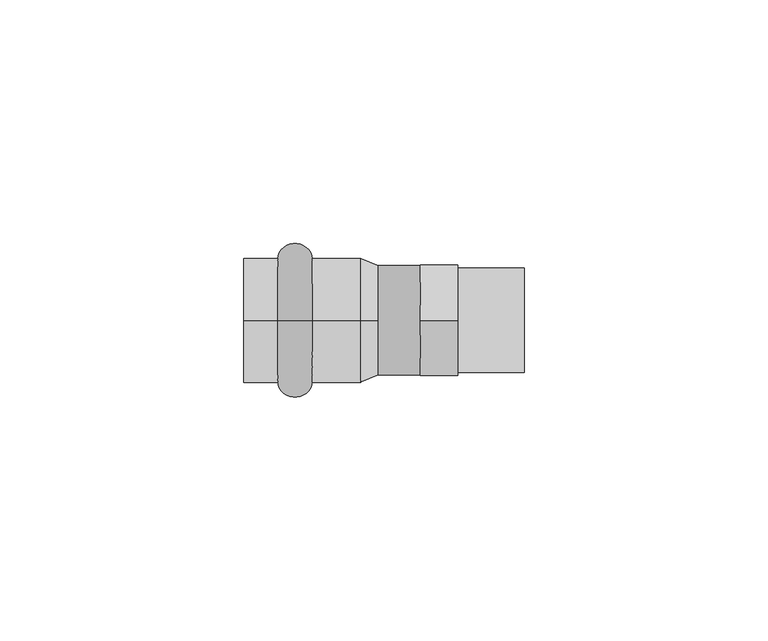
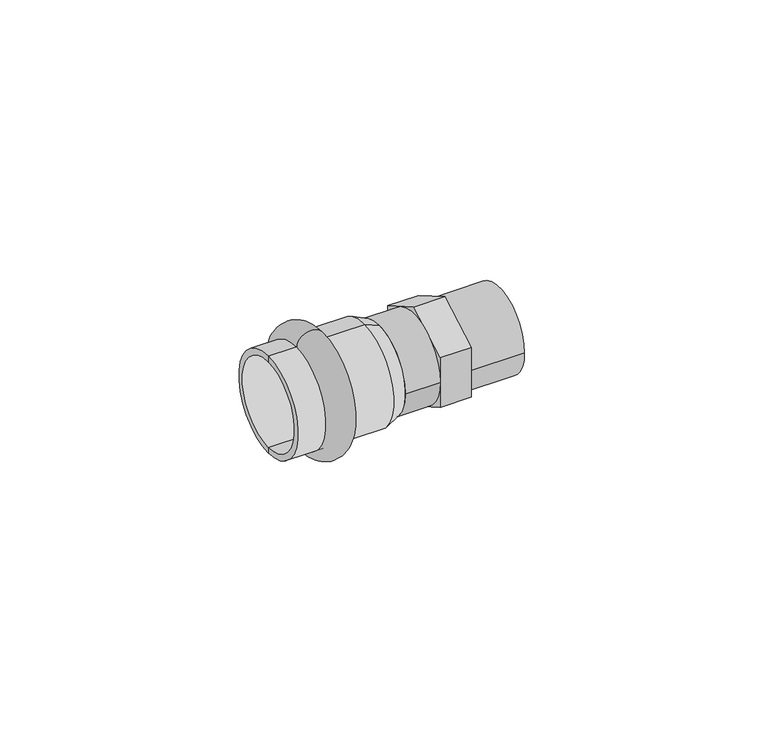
"""IFC4 building model written with IfcOpenShell, lengths in millimetres: pipe fitting geometry."""

from ifc_helpers import new_model, si_unit, point, frame, origin, origin_2d, place, context, project, spatial, polyline, circle_curve, ellipse_curve, trimmed, segment, composite_curve, outline, extrude, source, transform, mapped, element, save
from ifc_brep_helpers import plane_surface, cylinder_surface, revolved_surface, advanced_brep


def pipe_fitting_c1bab750(model_context):
    return source(origin(), model_context, "Body", "SolidModel", [
        advanced_brep(
        [(-17.0, 0.0, 12.75), (-17.0, 0.0, -12.75), (-10.0, 0.0, -12.75), (-10.0, 0.0, 12.75)],
        [
            (0, 1, circle_curve(frame((-17.0, 0.0, 0.0), z_axis=(-1.0, 0.0, 0.0), x_axis=(0.0, 0.0, -1.0)), 12.75)),
            (1, 2),
            (2, 3, circle_curve(frame((-10.0, 0.0, 0.0), z_axis=(1.0, 0.0, 0.0), x_axis=(0.0, 0.0, -1.0)), 12.75)),
            (3, 0),
            (1, 0, circle_curve(frame((-17.0, 0.0, 0.0), z_axis=(-1.0, 0.0, 0.0), x_axis=(0.0, 0.0, -1.0)), 12.75)),
            (3, 2, circle_curve(frame((-10.0, 0.0, 0.0), z_axis=(1.0, 0.0, 0.0), x_axis=(0.0, 0.0, -1.0)), 12.75)),
            (2, 1, ellipse_curve(frame((-13.5, 0.0, -12.75), z_axis=(0.0, 1.0, 0.0), x_axis=(-1.0, 0.0, 0.0)), 3.5, 3.1)),
            (0, 3, ellipse_curve(frame((-13.5, 0.0, 12.75), z_axis=(0.0, 1.0, 0.0), x_axis=(-1.0, 0.0, 0.0)), 3.5, 3.1)),
        ],
        [
            revolved_surface(polyline([(-10.0, 0.0, -12.75), (-17.0, 0.0, -12.75)]), (3.0, 0.0, 0.0), (1.0, 0.0, 0.0)),
            revolved_surface(trimmed(ellipse_curve(frame((-13.5, 0.0, -12.75), z_axis=(0.0, -1.0, 0.0), x_axis=(-1.0, 0.0, 0.0)), 3.5, 3.1), [point((-17.0, 0.0, -12.75))], [point((-10.0, 0.0, -12.75))], True, "CARTESIAN"), (3.0, 0.0, 0.0), (1.0, 0.0, 0.0)),
        ],
        [
            (0, [[1, 2, 3, 4]]),
            (0, [[5, -4, 6, -2]]),
            (1, [[-3, 7, -1, 8]]),
            (1, [[-6, -8, -5, -7]]),
        ],
    ),
        advanced_brep(
        [(3.5337785, 0.0, 11.25), (3.5337785, 0.0, -11.25), (0.0, 0.0, -12.75), (0.0, 0.0, 12.75), (-24.0, 0.0, 11.25), (-24.0, 0.0, -11.25), (-24.0, 0.0, 12.75), (-24.0, 0.0, -12.75)],
        [
            (0, 1, circle_curve(frame((3.5337785, 0.0, 0.0), z_axis=(-1.0, 0.0, 0.0), x_axis=(0.0, 0.0, -1.0)), 11.25)),
            (1, 2),
            (2, 3, circle_curve(frame((0.0, 0.0, 0.0), z_axis=(1.0, 0.0, 0.0), x_axis=(0.0, 0.0, -1.0)), 12.75)),
            (3, 0),
            (1, 0, circle_curve(frame((3.5337785, 0.0, 0.0), z_axis=(-1.0, 0.0, 0.0), x_axis=(0.0, 0.0, -1.0)), 11.25)),
            (3, 2, circle_curve(frame((0.0, 0.0, 0.0), z_axis=(1.0, 0.0, 0.0), x_axis=(0.0, 0.0, -1.0)), 12.75)),
            (4, 5, circle_curve(frame((-24.0, 0.0, 0.0), z_axis=(-1.0, 0.0, 0.0), x_axis=(0.0, 0.0, -1.0)), 11.25)),
            (5, 1),
            (0, 4),
            (5, 4, circle_curve(frame((-24.0, 0.0, 0.0), z_axis=(-1.0, 0.0, 0.0), x_axis=(0.0, 0.0, -1.0)), 11.25)),
            (6, 7, circle_curve(frame((-24.0, 0.0, 0.0), z_axis=(-1.0, 0.0, 0.0), x_axis=(0.0, 0.0, -1.0)), 12.75)),
            (7, 5),
            (4, 6),
            (7, 6, circle_curve(frame((-24.0, 0.0, 0.0), z_axis=(-1.0, 0.0, 0.0), x_axis=(0.0, 0.0, -1.0)), 12.75)),
            (2, 7),
            (6, 3),
        ],
        [
            revolved_surface(polyline([(0.0, 0.0, -12.75), (3.5337785, 0.0, -11.25)]), (3.0, 0.0, 0.0), (1.0, 0.0, 0.0)),
            revolved_surface(polyline([(3.5337785, 0.0, -11.25), (-24.0, 0.0, -11.25)]), (3.0, 0.0, 0.0), (1.0, 0.0, 0.0)),
            plane_surface(frame((-24.0, 0.0, 0.0), z_axis=(-1.0, 0.0, 0.0), x_axis=(0.0, 0.0, -1.0))),
            cylinder_surface(frame((3.0, 0.0, 0.0), z_axis=(1.0, 0.0, 0.0), x_axis=(0.0, 0.0, -1.0)), 12.75),
        ],
        [
            (0, [[1, 2, 3, 4]]),
            (0, [[5, -4, 6, -2]]),
            (1, [[7, 8, -1, 9]]),
            (1, [[10, -9, -5, -8]]),
            (2, [[11, 12, -7, 13]]),
            (2, [[14, -13, -10, -12]]),
            (3, [[-3, 15, -11, 16]]),
            (3, [[-6, -16, -14, -15]]),
        ],
    ),
        extrude(outline(composite_curve([segment(trimmed(circle_curve(origin_2d(), 10.75), [point((-10.75, 0.0))], [point((10.75, 0.0))], False, "CARTESIAN"), True, "CONTINUOUS"), segment(trimmed(circle_curve(origin_2d(), 10.75), [point((10.75, 0.0))], [point((-10.75, 0.0))], False, "CARTESIAN"), True, "CONTINUOUS")], self_intersect=False)), frame((19.9337785, 0.0, 0.0), z_axis=(1.0, 0.0, 0.0), x_axis=(0.0, 1.0, 0.0)), (0.0, 0.0, 1.0), 13.6),
        extrude(outline(composite_curve([segment(trimmed(circle_curve(origin_2d(), 11.25), [point((-11.25, 0.0))], [point((11.25, 0.0))], False, "CARTESIAN"), True, "CONTINUOUS"), segment(trimmed(circle_curve(origin_2d(), 11.25), [point((11.25, 0.0))], [point((-11.25, 0.0))], False, "CARTESIAN"), True, "CONTINUOUS")], self_intersect=False)), frame((3.5337785, 0.0, 0.0), z_axis=(1.0, 0.0, 0.0), x_axis=(0.0, 1.0, 0.0)), (0.0, 0.0, 1.0), 8.7),
        extrude(outline(polyline([(-11.3, 6.524058), (0.0, 13.0481161), (11.3, 6.524058), (11.3, -6.524058), (0.0, -13.0481161), (-11.3, -6.524058), (-11.3, 6.524058)]), holes=[polyline([(0.0, -7.2168784), (6.25, -3.6084392), (6.25, 3.6084392), (0.0, 7.2168784), (-6.25, 3.6084392), (-6.25, -3.6084392), (0.0, -7.2168784)])]), frame((12.2337785, 0.0, 0.0), z_axis=(1.0, 0.0, 0.0), x_axis=(0.0, 1.0, 0.0)), (0.0, 0.0, 1.0), 7.7),
    ])


if __name__ == "__main__":
    model = new_model("IFC4")
    model_context = context("Model", 3, world=origin())
    ifc_project = project(units=[si_unit("LENGTHUNIT", "METRE", prefix="MILLI")], contexts=[model_context])
    site = spatial("IfcSite", under=ifc_project)
    building = spatial("IfcBuilding", under=site)
    placement = place(None, origin())
    pipe_fitting_shape = pipe_fitting_c1bab750(model_context)
    element("IfcPipeFitting", 1, ObjectType="РЕХАУ_Пресс Муфта НР : 22 x R 1/2\"", at=placement, inside=building, context=model_context, shape_type="MappedRepresentation", body=[
        mapped(pipe_fitting_shape, transform((0.0, 0.0, 0.0), x_axis=(1.0, 0.0, 0.0), y_axis=(0.0, 1.0, 0.0), z_axis=(0.0, 0.0, 1.0))),
    ])
    save(model, "model.ifc")
